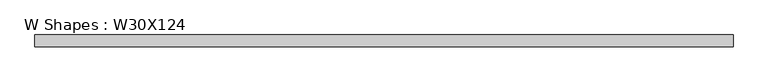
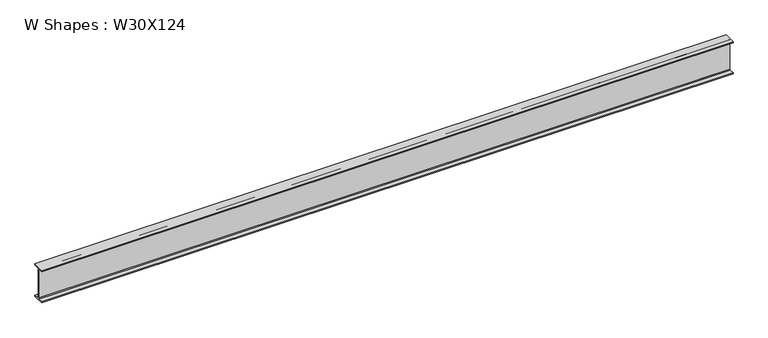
"""IFC4 building model written with IfcOpenShell, lengths in millimetres: beam geometry, W Shapes : W30X124."""

from ifc_helpers import new_model, si_unit, point, frame, frame_2d, origin, place, context, project, spatial, polyline, circle_curve, trimmed, segment, composite_curve, outline, extrude, source, transform, mapped, element, save


def w_shapes_w30x124_41c3317b(model_context):
    return source(origin(), model_context, "Body", "SweptSolid", [
        extrude(outline(composite_curve([segment(polyline([(133.35, -359.918), (133.35, -383.54), (-133.35, -383.54), (-133.35, -359.918), (-23.9395, -359.918)]), True, "CONTINUOUS"), segment(trimmed(circle_curve(frame_2d((-23.9395, -343.408)), 16.51), [point((-23.9395, -359.918))], [point((-7.4295, -343.408))], True, "CARTESIAN"), True, "CONTINUOUS"), segment(polyline([(-7.4295, -343.408), (-7.4295, 343.408)]), True, "CONTINUOUS"), segment(trimmed(circle_curve(frame_2d((-23.9395, 343.408)), 16.51), [point((-7.4295, 343.408))], [point((-23.9395, 359.918))], True, "CARTESIAN"), True, "CONTINUOUS"), segment(polyline([(-23.9395, 359.918), (-133.35, 359.918), (-133.35, 383.54), (133.35, 383.54), (133.35, 359.918), (23.9395, 359.918)]), True, "CONTINUOUS"), segment(trimmed(circle_curve(frame_2d((23.9395, 343.408)), 16.51), [point((23.9395, 359.918))], [point((7.4295, 343.408))], True, "CARTESIAN"), True, "CONTINUOUS"), segment(polyline([(7.4295, 343.408), (7.4295, -343.408)]), True, "CONTINUOUS"), segment(trimmed(circle_curve(frame_2d((23.9395, -343.408)), 16.51), [point((7.4295, -343.408))], [point((23.9395, -359.918))], True, "CARTESIAN"), True, "CONTINUOUS"), segment(polyline([(23.9395, -359.918), (133.35, -359.918)]), True, "CONTINUOUS")], self_intersect=False)), frame((-7790.4495102, 0.0, 0.0), z_axis=(1.0, 0.0, 0.0), x_axis=(0.0, 1.0, 0.0)), (0.0, 0.0, 1.0), 15580.8990204),
    ])


if __name__ == "__main__":
    model = new_model("IFC4")
    model_context = context("Model", 3, world=origin())
    ifc_project = project(units=[si_unit("LENGTHUNIT", "METRE", prefix="MILLI")], contexts=[model_context])
    site = spatial("IfcSite", under=ifc_project)
    building = spatial("IfcBuilding", under=site)
    placement = place(None, origin())
    w_shapes_w30x124_shape = w_shapes_w30x124_41c3317b(model_context)
    element("IfcBeam", 1, ObjectType="W Shapes : W30X124", at=placement, inside=building, context=model_context, shape_type="MappedRepresentation", body=[
        mapped(w_shapes_w30x124_shape, transform((0.0, 0.0, 0.0), x_axis=(1.0, 0.0, 0.0), y_axis=(0.0, 1.0, 0.0), z_axis=(0.0, 0.0, 1.0))),
    ])
    save(model, "model.ifc")
